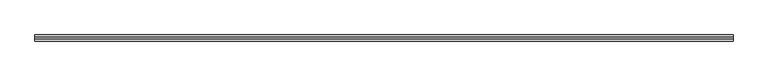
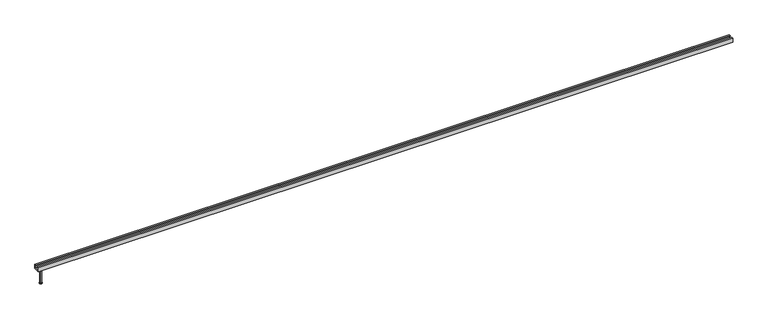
"""IFC4 building model written with IfcOpenShell, lengths in millimetres: fastener geometry, JTA-K JORDAHL® AnchorChannels : JTA-K L=6000 mm."""

from ifc_helpers import new_model, si_unit, frame, origin, place, context, project, spatial, polyline, circle_curve, outline, extrude, source, transform, mapped, element, save
from ifc_brep_helpers import plane_surface, cylinder_surface, revolved_surface, advanced_brep


def fastener_b06f2bc2(model_context):
    return source(origin(), model_context, "Body", "SolidModel", [
        advanced_brep(
        [(35.0, 0.0, -34.0), (17.5, 0.0, -34.0), (52.5, 0.0, -34.0), (23.5, 0.0, -165.0), (35.0, 0.0, -165.0), (46.5, 0.0, -165.0), (23.5, 0.0, -163.0), (46.5, 0.0, -163.0), (29.2, 0.0, -159.7091035), (40.8, 0.0, -159.7091035), (29.2, 0.0, -37.0), (40.8, 0.0, -37.0)],
        [
            (0, 1),
            (1, 2, circle_curve(frame((35.0, 0.0, -34.0), z_axis=(0.0, 0.0, 1.0), x_axis=(1.0, 0.0, 0.0)), 17.5)),
            (2, 0),
            (2, 1, circle_curve(frame((35.0, 0.0, -34.0), z_axis=(0.0, 0.0, 1.0), x_axis=(1.0, 0.0, 0.0)), 17.5)),
            (3, 4),
            (4, 5),
            (5, 3, circle_curve(frame((35.0, 0.0, -165.0), z_axis=(0.0, 0.0, -1.0), x_axis=(1.0, 0.0, 0.0)), 11.5)),
            (3, 5, circle_curve(frame((35.0, 0.0, -165.0), z_axis=(0.0, 0.0, -1.0), x_axis=(1.0, 0.0, 0.0)), 11.5)),
            (6, 3),
            (5, 7),
            (7, 6, circle_curve(frame((35.0, 0.0, -163.0), z_axis=(0.0, 0.0, -1.0), x_axis=(1.0, 0.0, 0.0)), 11.5)),
            (6, 7, circle_curve(frame((35.0, 0.0, -163.0), z_axis=(0.0, 0.0, -1.0), x_axis=(1.0, 0.0, 0.0)), 11.5)),
            (8, 6),
            (7, 9),
            (9, 8, circle_curve(frame((35.0, 0.0, -159.7091035), z_axis=(0.0, 0.0, -1.0), x_axis=(1.0, 0.0, 0.0)), 5.8)),
            (8, 9, circle_curve(frame((35.0, 0.0, -159.7091035), z_axis=(0.0, 0.0, -1.0), x_axis=(1.0, 0.0, 0.0)), 5.8)),
            (10, 8),
            (9, 11),
            (11, 10, circle_curve(frame((35.0, 0.0, -37.0), z_axis=(0.0, 0.0, -1.0), x_axis=(1.0, 0.0, 0.0)), 5.8)),
            (10, 11, circle_curve(frame((35.0, 0.0, -37.0), z_axis=(0.0, 0.0, -1.0), x_axis=(1.0, 0.0, 0.0)), 5.8)),
            (1, 10),
            (11, 2),
        ],
        [
            plane_surface(frame((35.0, 0.0, -34.0), z_axis=(0.0, 0.0, 1.0), x_axis=(1.0, 0.0, 0.0))),
            plane_surface(frame((35.0, 0.0, -165.0), z_axis=(0.0, 0.0, -1.0), x_axis=(1.0, 0.0, 0.0))),
            cylinder_surface(frame((35.0, 0.0, 2345.3150031), z_axis=(0.0, 0.0, 1.0), x_axis=(1.0, 0.0, 0.0)), 11.5),
            revolved_surface(polyline([(46.5, 0.0, -163.0), (40.8, 0.0, -159.7091035)]), (35.0, 0.0, 2345.3150031), (0.0, 0.0, 1.0)),
            cylinder_surface(frame((35.0, 0.0, 2345.3150031), z_axis=(0.0, 0.0, 1.0), x_axis=(1.0, 0.0, 0.0)), 5.8),
            revolved_surface(polyline([(40.8, 0.0, -37.0), (52.5, 0.0, -34.0)]), (35.0, 0.0, 2345.3150031), (0.0, 0.0, 1.0)),
        ],
        [
            (0, [[1, 2, 3]]),
            (0, [[-3, 4, -1]]),
            (1, [[5, 6, 7]]),
            (1, [[-6, -5, 8]]),
            (2, [[9, -7, 10, 11]]),
            (2, [[-10, -8, -9, 12]]),
            (3, [[13, -11, 14, 15]]),
            (3, [[-14, -12, -13, 16]]),
            (4, [[17, -15, 18, 19]]),
            (4, [[-18, -16, -17, 20]]),
            (5, [[21, -19, 22, -2]]),
            (5, [[-22, -20, -21, -4]]),
        ],
    ),
        extrude(outline(polyline([(-26.5, 0.0), (-11.0, 0.0), (-11.0, -4.5), (-22.0, -4.5), (-22.0, -29.5), (22.0, -29.5), (22.0, -4.5), (11.0, -4.5), (11.0, 0.0), (26.5, 0.0), (26.5, -34.0), (-26.5, -34.0), (-26.5, 0.0)])), frame((0.0, 0.0, 0.0), z_axis=(1.0, 0.0, 0.0), x_axis=(0.0, 1.0, 0.0)), (0.0, 0.0, 1.0), 6000.0),
    ])


if __name__ == "__main__":
    model = new_model("IFC4")
    model_context = context("Model", 3, world=origin())
    ifc_project = project(units=[si_unit("LENGTHUNIT", "METRE", prefix="MILLI")], contexts=[model_context])
    site = spatial("IfcSite", under=ifc_project)
    building = spatial("IfcBuilding", under=site)
    placement = place(None, origin())
    fastener_shape = fastener_b06f2bc2(model_context)
    element("IfcFastener", 1, ObjectType="JTA-K JORDAHL® AnchorChannels : JTA-K L=6000 mm", at=placement, inside=building, context=model_context, shape_type="MappedRepresentation", body=[
        mapped(fastener_shape, transform((0.0, 0.0, 0.0), x_axis=(1.0, 0.0, 0.0), y_axis=(0.0, 1.0, 0.0), z_axis=(0.0, 0.0, 1.0))),
    ])
    save(model, "model.ifc")
